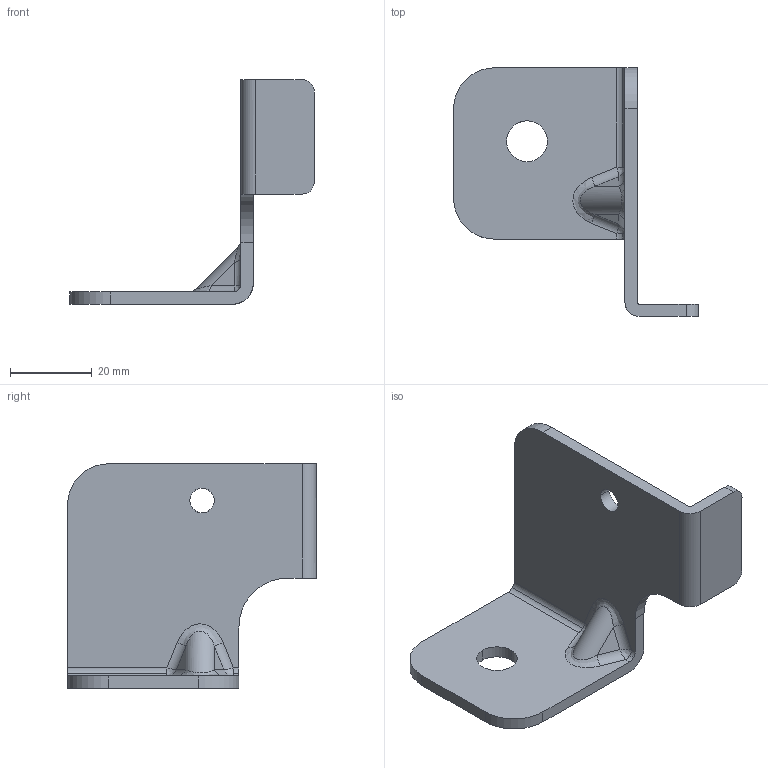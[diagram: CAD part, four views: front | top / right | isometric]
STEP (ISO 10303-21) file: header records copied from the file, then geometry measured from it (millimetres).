
FILE_DESCRIPTION(('CATIA V5 STEP Exchange'),'2;1');
FILE_NAME('E:\李燕龙\吉利商用车G3\10 2D\手动\钣金单件图纸\SHT0015282---SHT0015281-右前脚架\SHT0015281--D.stp','2023-10-23T01:51:15+00:00',('none'),('none'),'CATIA Version 5 Release 20 GA (IN-10)','CATIA V5 STEP AP214','none');
FILE_SCHEMA(('AUTOMOTIVE_DESIGN { 1 0 10303 214 1 1 1 1 }'));
Length unit declared in the file: millimetre
Products named in the file (1): Part60
Bounding box: 60 x 61 x 55 mm (x, y, z)
Volume: 14306.3 mm3; surface area: 10721.5 mm2
Topology: 1 solids, 1 shells, 57 faces, 149 edges, 88 vertices
Faces by surface type: cylinder 31, plane 16, bspline 6, sphere 4
Entity records: 2486 total; most frequent: CARTESIAN_POINT 1197, ORIENTED_EDGE 286, DIRECTION 207, EDGE_CURVE 143, AXIS2_PLACEMENT_3D 88, VERTEX_POINT 88, VECTOR 71, LINE 71
